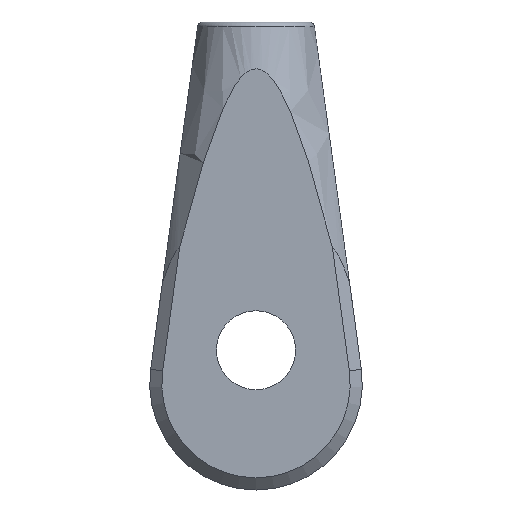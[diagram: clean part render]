
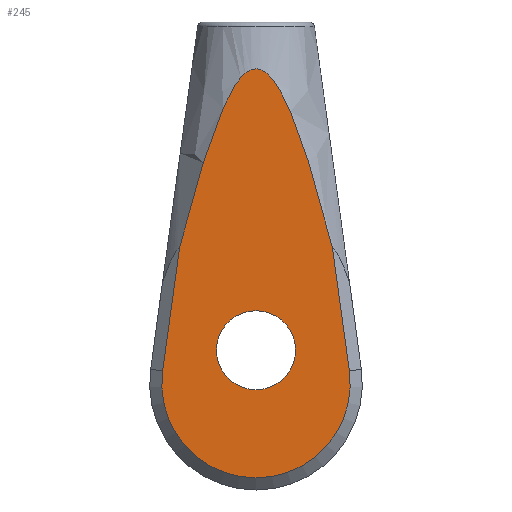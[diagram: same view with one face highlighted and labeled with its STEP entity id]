
A CAD part, front view. The second image highlights one B-rep face of the part: STEP entity #245.
In plain terms, the highlighted planar face has unit normal (0, -1, 0).
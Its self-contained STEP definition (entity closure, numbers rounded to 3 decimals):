
#26 = CARTESIAN_POINT ( 'NONE',  ( -1.69, -11., -31.807 ) ) ;
#43 = DIRECTION ( 'NONE',  ( 0., 1., 0. ) ) ;
#55 = DIRECTION ( 'NONE',  ( -0.136, 0., -0.991 ) ) ;
#59 = EDGE_CURVE ( 'NONE', #1118, #169, #1668, .T. ) ;
#80 = CARTESIAN_POINT ( 'NONE',  ( 6.508, -11., -9.763 ) ) ;
#88 = CARTESIAN_POINT ( 'NONE',  ( 9.922, -11., -7.751 ) ) ;
#94 = CARTESIAN_POINT ( 'NONE',  ( 12.965, -11., -10.451 ) ) ;
#100 = CARTESIAN_POINT ( 'NONE',  ( 22.062, -11., -37.026 ) ) ;
#130 = ORIENTED_EDGE ( 'NONE', *, *, #1338, .T. ) ;
#164 = CARTESIAN_POINT ( 'NONE',  ( 0.543, -11., -24.021 ) ) ;
#169 = VERTEX_POINT ( 'NONE', #1309 ) ;
#170 = VECTOR ( 'NONE', #55, 1000. ) ;
#171 = CARTESIAN_POINT ( 'NONE',  ( -2.387, -11., -34.414 ) ) ;
#190 = DIRECTION ( 'NONE',  ( 0., 1., 0. ) ) ;
#234 = CARTESIAN_POINT ( 'NONE',  ( 7.17, -11., -8.958 ) ) ;
#241 = CARTESIAN_POINT ( 'NONE',  ( 10.422, -11., -7.909 ) ) ;
#245 = ADVANCED_FACE ( 'NONE', ( #999, #1842 ), #1719, .F. ) ;
#250 = CARTESIAN_POINT ( 'NONE',  ( 13.501, -11., -11.34 ) ) ;
#259 = VERTEX_POINT ( 'NONE', #822 ) ;
#270 = LINE ( 'NONE', #1793, #170 ) ;
#275 = CARTESIAN_POINT ( 'NONE',  ( -3.062, -11., -37.026 ) ) ;
#288 = ORIENTED_EDGE ( 'NONE', *, *, #1710, .T. ) ;
#376 = CARTESIAN_POINT ( 'NONE',  ( 7.676, -11., -8.485 ) ) ;
#383 = CARTESIAN_POINT ( 'NONE',  ( 10.883, -11., -8.157 ) ) ;
#387 = CARTESIAN_POINT ( 'NONE',  ( 14.303, -11., -12.861 ) ) ;
#396 = EDGE_LOOP ( 'NONE', ( #130, #806, #1445, #288 ) ) ;
#400 = CARTESIAN_POINT ( 'NONE',  ( -5.856, -11., -57.393 ) ) ;
#452 = CARTESIAN_POINT ( 'NONE',  ( 24.856, -11., -57.393 ) ) ;
#467 = CARTESIAN_POINT ( 'NONE',  ( 24.856, -11., -57.393 ) ) ;
#479 = CARTESIAN_POINT ( 'NONE',  ( 3.17, -11., -16.387 ) ) ;
#504 = LINE ( 'NONE', #467, #831 ) ;
#508 = CARTESIAN_POINT ( 'NONE',  ( 8.096, -11., -8.171 ) ) ;
#512 = CARTESIAN_POINT ( 'NONE',  ( 11.303, -11., -8.468 ) ) ;
#519 = CARTESIAN_POINT ( 'NONE',  ( 15.68, -11., -16.002 ) ) ;
#552 = DIRECTION ( 'NONE',  ( 0., -1., 0. ) ) ;
#568 = AXIS2_PLACEMENT_3D ( 'NONE', #690, #1871, #980 ) ;
#574 = VERTEX_POINT ( 'NONE', #400 ) ;
#594 = CARTESIAN_POINT ( 'NONE',  ( -3.062, -11., -37.026 ) ) ;
#647 = CARTESIAN_POINT ( 'NONE',  ( 8.555, -11., -7.919 ) ) ;
#656 = CARTESIAN_POINT ( 'NONE',  ( 11.688, -11., -8.822 ) ) ;
#663 = CARTESIAN_POINT ( 'NONE',  ( 17.097, -11., -19.877 ) ) ;
#690 = CARTESIAN_POINT ( 'NONE',  ( 9.5, -11., -59.5 ) ) ;
#783 = CARTESIAN_POINT ( 'NONE',  ( 5.405, -11., -11.493 ) ) ;
#794 = CARTESIAN_POINT ( 'NONE',  ( 9.054, -11., -7.756 ) ) ;
#799 = CARTESIAN_POINT ( 'NONE',  ( 12.155, -11., -9.33 ) ) ;
#806 = ORIENTED_EDGE ( 'NONE', *, *, #1049, .T. ) ;
#807 = CARTESIAN_POINT ( 'NONE',  ( 19.172, -11., -26.429 ) ) ;
#822 = CARTESIAN_POINT ( 'NONE',  ( 22.062, -11., -37.026 ) ) ;
#827 = VERTEX_POINT ( 'NONE', #452 ) ;
#831 = VECTOR ( 'NONE', #1645, 1000. ) ;
#841 = EDGE_CURVE ( 'NONE', #1347, #259, #1595, .T. ) ;
#858 = AXIS2_PLACEMENT_3D ( 'NONE', #1418, #552, #1566 ) ;
#868 = CARTESIAN_POINT ( 'NONE',  ( -0.225, -11., -26.612 ) ) ;
#885 = CARTESIAN_POINT ( 'NONE',  ( 9.5, -11., -54. ) ) ;
#905 = ORIENTED_EDGE ( 'NONE', *, *, #59, .T. ) ;
#925 = CIRCLE ( 'NONE', #1573, 6.5 ) ;
#930 = CARTESIAN_POINT ( 'NONE',  ( 6.307, -11., -10.046 ) ) ;
#937 = CARTESIAN_POINT ( 'NONE',  ( 9.575, -11., -7.711 ) ) ;
#943 = CARTESIAN_POINT ( 'NONE',  ( 12.773, -11., -10.161 ) ) ;
#949 = CARTESIAN_POINT ( 'NONE',  ( 21.375, -11., -34.367 ) ) ;
#958 = ORIENTED_EDGE ( 'NONE', *, *, #996, .T. ) ;
#972 = CARTESIAN_POINT ( 'NONE',  ( 4.49, -11., -13.297 ) ) ;
#980 = DIRECTION ( 'NONE',  ( 0., 0., 1. ) ) ;
#996 = EDGE_CURVE ( 'NONE', #169, #1118, #925, .T. ) ;
#999 = FACE_BOUND ( 'NONE', #1400, .T. ) ;
#1037 = DIRECTION ( 'NONE',  ( 0., 0., 1. ) ) ;
#1041 = DIRECTION ( 'NONE',  ( 0., 0., 1. ) ) ;
#1042 = CIRCLE ( 'NONE', #858, 15.5 ) ;
#1049 = EDGE_CURVE ( 'NONE', #827, #259, #504, .T. ) ;
#1072 = AXIS2_PLACEMENT_3D ( 'NONE', #1177, #190, #1041 ) ;
#1078 = CARTESIAN_POINT ( 'NONE',  ( 6.941, -11., -9.218 ) ) ;
#1084 = CARTESIAN_POINT ( 'NONE',  ( 10.092, -11., -7.792 ) ) ;
#1090 = CARTESIAN_POINT ( 'NONE',  ( 13.329, -11., -11.041 ) ) ;
#1117 = CARTESIAN_POINT ( 'NONE',  ( 2.237, -11., -18.909 ) ) ;
#1118 = VERTEX_POINT ( 'NONE', #1804 ) ;
#1177 = CARTESIAN_POINT ( 'NONE',  ( 9.5, -11., -54. ) ) ;
#1219 = CARTESIAN_POINT ( 'NONE',  ( 7.546, -11., -8.6 ) ) ;
#1228 = CARTESIAN_POINT ( 'NONE',  ( 10.581, -11., -7.984 ) ) ;
#1234 = CARTESIAN_POINT ( 'NONE',  ( 13.998, -11., -12.245 ) ) ;
#1309 = CARTESIAN_POINT ( 'NONE',  ( 9.5, -11., -60.5 ) ) ;
#1338 = EDGE_CURVE ( 'NONE', #574, #827, #1042, .T. ) ;
#1347 = VERTEX_POINT ( 'NONE', #275 ) ;
#1367 = CARTESIAN_POINT ( 'NONE',  ( 7.951, -11., -8.271 ) ) ;
#1373 = CARTESIAN_POINT ( 'NONE',  ( 11.027, -11., -8.255 ) ) ;
#1380 = CARTESIAN_POINT ( 'NONE',  ( 15.167, -11., -14.729 ) ) ;
#1400 = EDGE_LOOP ( 'NONE', ( #958, #905 ) ) ;
#1418 = CARTESIAN_POINT ( 'NONE',  ( 9.5, -11., -59.5 ) ) ;
#1445 = ORIENTED_EDGE ( 'NONE', *, *, #841, .F. ) ;
#1489 = CARTESIAN_POINT ( 'NONE',  ( 1.8, -11., -20.181 ) ) ;
#1523 = CARTESIAN_POINT ( 'NONE',  ( 8.398, -11., -7.995 ) ) ;
#1532 = CARTESIAN_POINT ( 'NONE',  ( 11.436, -11., -8.583 ) ) ;
#1537 = CARTESIAN_POINT ( 'NONE',  ( 16.646, -11., -18.575 ) ) ;
#1566 = DIRECTION ( 'NONE',  ( 0., 0., 1. ) ) ;
#1573 = AXIS2_PLACEMENT_3D ( 'NONE', #885, #43, #1037 ) ;
#1595 = B_SPLINE_CURVE_WITH_KNOTS ( 'NONE', 3,
 ( #594, #171, #26, #868, #164, #1489, #1117, #479, #1846, #972, #1667, #783, #1824, #930, #80, #1078, #234, #1219, #376, #1367, #508, #1523, #647, #1674, #794, #1829, #937, #88, #1084, #241, #1228, #383, #1373, #512, #1532, #656, #1681, #799, #1841, #943, #94, #1090, #250, #1234, #387, #1380, #519, #1537, #663, #1688, #807, #1847, #949, #100 ),
 .UNSPECIFIED., .F., .F.,
 ( 4, 2, 2, 2, 2, 2, 2, 2, 2, 2, 2, 2, 2, 2, 2, 2, 2, 2, 2, 2, 2, 2, 2, 2, 2, 2, 4 ),
 ( 0.205, 0.213, 0.221, 0.225, 0.229, 0.231, 0.233, 0.234, 0.235, 0.236, 0.236, 0.237, 0.237, 0.238, 0.238, 0.239, 0.239, 0.24, 0.24, 0.241, 0.242, 0.243, 0.245, 0.249, 0.253, 0.261, 0.269 ),
 .UNSPECIFIED. ) ;
#1645 = DIRECTION ( 'NONE',  ( -0.136, 0., 0.991 ) ) ;
#1667 = CARTESIAN_POINT ( 'NONE',  ( 4.779, -11., -12.69 ) ) ;
#1668 = CIRCLE ( 'NONE', #1072, 6.5 ) ;
#1674 = CARTESIAN_POINT ( 'NONE',  ( 8.885, -11., -7.799 ) ) ;
#1681 = CARTESIAN_POINT ( 'NONE',  ( 11.808, -11., -8.946 ) ) ;
#1688 = CARTESIAN_POINT ( 'NONE',  ( 18.389, -11., -23.796 ) ) ;
#1710 = EDGE_CURVE ( 'NONE', #1347, #574, #270, .T. ) ;
#1719 = PLANE ( 'NONE',  #568 ) ;
#1793 = CARTESIAN_POINT ( 'NONE',  ( -5.856, -11., -57.393 ) ) ;
#1804 = CARTESIAN_POINT ( 'NONE',  ( 9.5, -11., -47.5 ) ) ;
#1824 = CARTESIAN_POINT ( 'NONE',  ( 5.739, -11., -10.904 ) ) ;
#1829 = CARTESIAN_POINT ( 'NONE',  ( 9.398, -11., -7.712 ) ) ;
#1841 = CARTESIAN_POINT ( 'NONE',  ( 12.368, -11., -9.601 ) ) ;
#1842 = FACE_OUTER_BOUND ( 'NONE', #396, .T. ) ;
#1846 = CARTESIAN_POINT ( 'NONE',  ( 3.664, -11., -15.137 ) ) ;
#1847 = CARTESIAN_POINT ( 'NONE',  ( 20.666, -11., -31.714 ) ) ;
#1871 = DIRECTION ( 'NONE',  ( 0., 1., 0. ) ) ;
